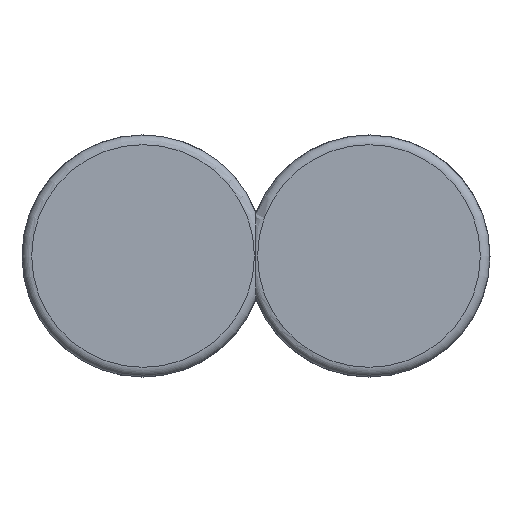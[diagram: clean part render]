
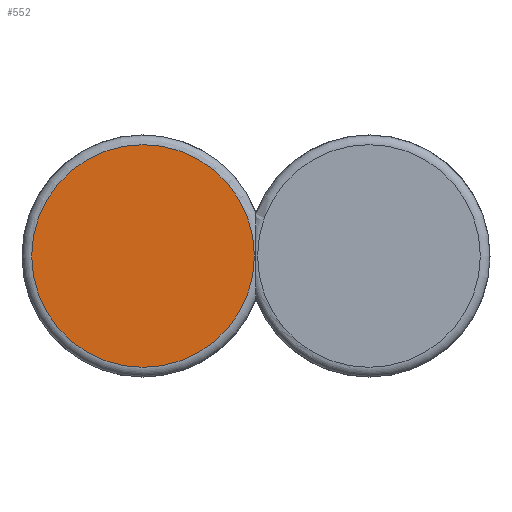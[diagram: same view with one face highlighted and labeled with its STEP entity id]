
A CAD part, left-side view. The second image highlights one B-rep face of the part: STEP entity #552.
In plain terms, the highlighted planar face has unit normal (-1, 0, 0).
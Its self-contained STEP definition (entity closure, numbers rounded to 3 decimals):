
#32 = FACE_OUTER_BOUND ( 'NONE', #271, .T. ) ;
#37 = CARTESIAN_POINT ( 'NONE',  ( -182., 0., 0. ) ) ;
#41 = VERTEX_POINT ( 'NONE', #122 ) ;
#64 = CARTESIAN_POINT ( 'NONE',  ( -182., 0., 0. ) ) ;
#66 = DIRECTION ( 'NONE',  ( -1., 0., 0. ) ) ;
#74 = DIRECTION ( 'NONE',  ( 0., 0., -1. ) ) ;
#117 = DIRECTION ( 'NONE',  ( 0., 0., -1. ) ) ;
#122 = CARTESIAN_POINT ( 'NONE',  ( -182., 0., -34.5 ) ) ;
#134 = AXIS2_PLACEMENT_3D ( 'NONE', #64, #66, #74 ) ;
#205 = CIRCLE ( 'NONE', #134, 34.5 ) ;
#271 = EDGE_LOOP ( 'NONE', ( #285 ) ) ;
#279 = AXIS2_PLACEMENT_3D ( 'NONE', #37, #347, #117 ) ;
#285 = ORIENTED_EDGE ( 'NONE', *, *, #368, .T. ) ;
#347 = DIRECTION ( 'NONE',  ( 1., 0., 0. ) ) ;
#368 = EDGE_CURVE ( 'NONE', #41, #41, #205, .T. ) ;
#552 = ADVANCED_FACE ( 'NONE', ( #32 ), #717, .F. ) ;
#717 = PLANE ( 'NONE',  #279 ) ;
